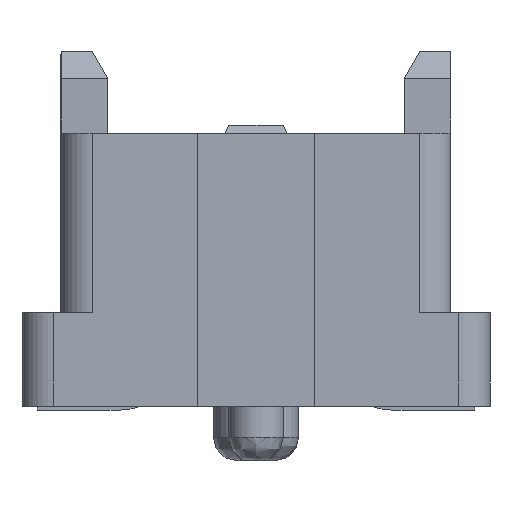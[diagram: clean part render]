
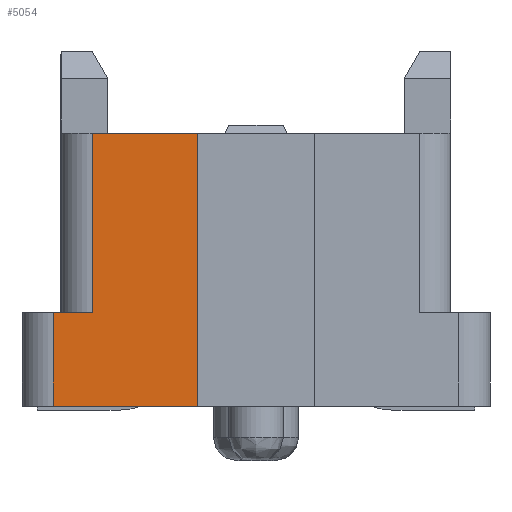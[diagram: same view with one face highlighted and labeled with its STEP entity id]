
A CAD part, left-side view. The second image highlights one B-rep face of the part: STEP entity #5054.
In plain terms, the highlighted planar face has unit normal (-1, 0, 0).
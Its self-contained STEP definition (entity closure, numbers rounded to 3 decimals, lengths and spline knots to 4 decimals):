
#5054=ADVANCED_FACE('',(#12233),#9305,.T.);
#9305=PLANE('',#84295);
#12233=FACE_OUTER_BOUND('',#16495,.T.);
#16495=EDGE_LOOP('',(#25902,#25903,#25904,#25905,#25906,#25907));
#25902=ORIENTED_EDGE('',*,*,#55059,.F.);
#25903=ORIENTED_EDGE('',*,*,#54909,.T.);
#25904=ORIENTED_EDGE('',*,*,#55060,.T.);
#25905=ORIENTED_EDGE('',*,*,#55054,.T.);
#25906=ORIENTED_EDGE('',*,*,#55061,.T.);
#25907=ORIENTED_EDGE('',*,*,#55048,.F.);
#46037=VERTEX_POINT('',#119075);
#46038=VERTEX_POINT('',#119077);
#46102=VERTEX_POINT('',#119407);
#46103=VERTEX_POINT('',#119409);
#46107=VERTEX_POINT('',#119419);
#46108=VERTEX_POINT('',#119421);
#54909=EDGE_CURVE('',#46038,#46037,#67050,.T.);
#55048=EDGE_CURVE('',#46102,#46103,#67174,.T.);
#55054=EDGE_CURVE('',#46108,#46107,#67177,.T.);
#55059=EDGE_CURVE('',#46038,#46102,#67181,.T.);
#55060=EDGE_CURVE('',#46037,#46108,#67182,.T.);
#55061=EDGE_CURVE('',#46107,#46103,#67183,.T.);
#67050=LINE('',#119076,#76648);
#67174=LINE('',#119408,#76772);
#67177=LINE('',#119420,#76775);
#67181=LINE('',#119430,#76779);
#67182=LINE('',#119431,#76780);
#67183=LINE('',#119432,#76781);
#76648=VECTOR('',#94839,1.);
#76772=VECTOR('',#95069,1.);
#76775=VECTOR('',#95080,1.);
#76779=VECTOR('',#95094,1.);
#76780=VECTOR('',#95095,1.);
#76781=VECTOR('',#95096,1.);
#84295=AXIS2_PLACEMENT_3D('',#119433,#95097,#95098);
#94839=DIRECTION('',(0.,1.,0.));
#95069=DIRECTION('',(0.,1.,0.));
#95080=DIRECTION('',(0.,1.,0.));
#95094=DIRECTION('',(0.,0.,-1.));
#95095=DIRECTION('',(0.,0.,-1.));
#95096=DIRECTION('',(0.,0.,-1.));
#95097=DIRECTION('',(-1.,0.,0.));
#95098=DIRECTION('',(0.,-1.,0.));
#119075=CARTESIAN_POINT('',(-3077.5157,67.8776,6.5));
#119076=CARTESIAN_POINT('',(-3077.5157,66.5276,6.5));
#119077=CARTESIAN_POINT('',(-3077.5157,66.5276,6.5));
#119407=CARTESIAN_POINT('',(-3077.5157,66.5276,3.));
#119408=CARTESIAN_POINT('',(-3077.5157,66.5276,3.));
#119409=CARTESIAN_POINT('',(-3077.5157,68.3776,3.));
#119419=CARTESIAN_POINT('',(-3077.5157,68.3776,4.2));
#119420=CARTESIAN_POINT('',(-3077.5157,66.5276,4.2));
#119421=CARTESIAN_POINT('',(-3077.5157,67.8776,4.2));
#119430=CARTESIAN_POINT('',(-3077.5157,66.5276,7.55));
#119431=CARTESIAN_POINT('',(-3077.5157,67.8776,7.55));
#119432=CARTESIAN_POINT('',(-3077.5157,68.3776,10.55));
#119433=CARTESIAN_POINT('',(-3077.5157,66.5276,7.55));
